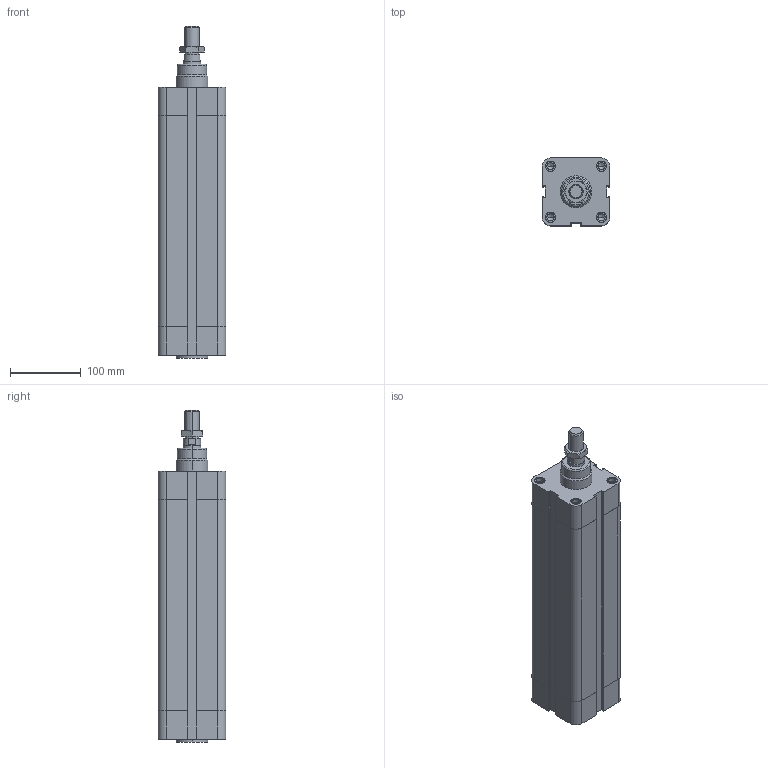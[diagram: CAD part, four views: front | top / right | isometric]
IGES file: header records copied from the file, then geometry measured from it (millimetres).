
Global section: file name: No Iges File Name specified; native system: AutoDesk Inventor R6.1; preprocessor: AutoDesk Inventor Iges Exporter R6.1; author: No Author specified; organization: No Organization specified; date: 20040107.171244; units: millimetre
Bounding box: 95.5 x 95.5 x 468 mm (x, y, z)
Volume: 3369861.8 mm3; surface area: 240322.6 mm2
Topology: 3 solids, 3 shells, 244 faces, 570 edges, 356 vertices
Faces by surface type: plane 83, bspline 67, cylinder 34, revolution 34, cone 24, torus 2
